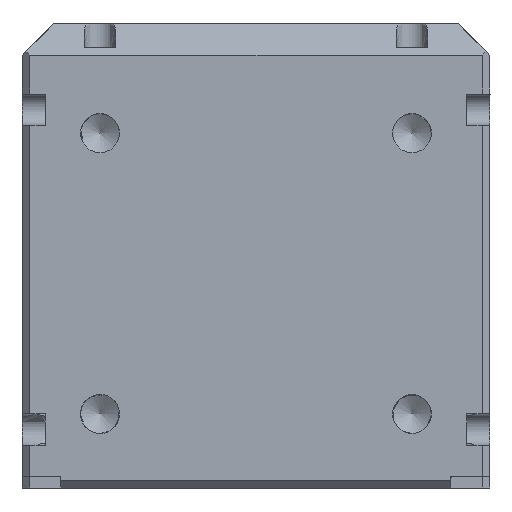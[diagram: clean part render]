
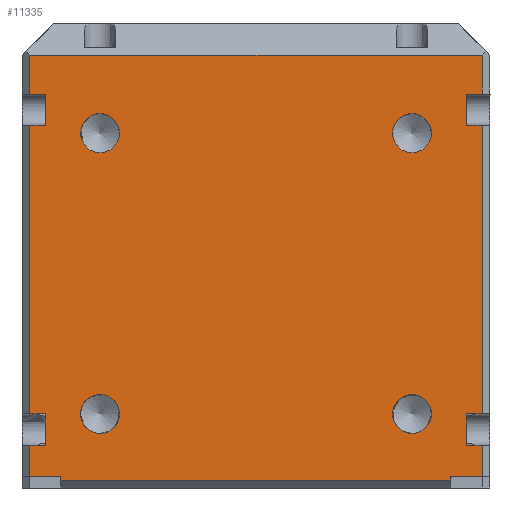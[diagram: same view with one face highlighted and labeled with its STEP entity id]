
A CAD part, front view. The second image highlights one B-rep face of the part: STEP entity #11335.
In plain terms, the highlighted planar face has unit normal (0, -1, 0).
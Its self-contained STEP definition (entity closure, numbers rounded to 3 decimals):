
#476=CARTESIAN_POINT('',(-25.,-48.5,-52.5));
#477=VERTEX_POINT('',#476);
#484=CARTESIAN_POINT('',(-25.,-48.5,-52.));
#485=VERTEX_POINT('',#484);
#486=CARTESIAN_POINT('',(-25.,-48.5,-52.));
#487=DIRECTION('',(0.0,0.0,-1.0));
#488=VECTOR('',#487,0.5);
#489=LINE('',#486,#488);
#490=EDGE_CURVE('',#485,#477,#489,.T.);
#2165=CARTESIAN_POINT('',(-29.,-48.5,-52.));
#2166=VERTEX_POINT('',#2165);
#2167=CARTESIAN_POINT('',(-29.,-48.5,-52.));
#2168=DIRECTION('',(1.0,0.0,0.0));
#2169=VECTOR('',#2168,4.0);
#2170=LINE('',#2167,#2169);
#2171=EDGE_CURVE('',#2166,#485,#2170,.T.);
#2238=CARTESIAN_POINT('',(29.,-48.5,-52.));
#2239=VERTEX_POINT('',#2238);
#2246=CARTESIAN_POINT('',(25.,-48.5,-52.));
#2247=VERTEX_POINT('',#2246);
#2248=CARTESIAN_POINT('',(29.,-48.5,-52.));
#2249=DIRECTION('',(-1.0,0.,0.));
#2250=VECTOR('',#2249,4.0);
#2251=LINE('',#2248,#2250);
#2252=EDGE_CURVE('',#2239,#2247,#2251,.T.);
#2535=CARTESIAN_POINT('',(25.,-48.5,-52.5));
#2536=VERTEX_POINT('',#2535);
#2537=CARTESIAN_POINT('',(25.,-48.5,-52.5));
#2538=DIRECTION('',(0.0,0.0,1.0));
#2539=VECTOR('',#2538,0.5);
#2540=LINE('',#2537,#2539);
#2541=EDGE_CURVE('',#2536,#2247,#2540,.T.);
#2576=CARTESIAN_POINT('',(25.,-48.5,-52.5));
#2577=DIRECTION('',(-1.0,0.0,0.0));
#2578=VECTOR('',#2577,50.0);
#2579=LINE('',#2576,#2578);
#2580=EDGE_CURVE('',#2536,#477,#2579,.T.);
#2700=CARTESIAN_POINT('',(22.5,-48.5,-44.));
#2701=VERTEX_POINT('',#2700);
#2702=CARTESIAN_POINT('',(20.,-48.5,-44.));
#2703=DIRECTION('',(0.0,1.0,0.0));
#2704=DIRECTION('',(1.0,0.0,0.0));
#2705=AXIS2_PLACEMENT_3D('',#2702,#2703,#2704);
#2706=CIRCLE('',#2705,2.5);
#2707=EDGE_CURVE('',#2701,#2701,#2706,.T.);
#2832=CARTESIAN_POINT('',(-17.5,-48.5,-44.));
#2833=VERTEX_POINT('',#2832);
#2834=CARTESIAN_POINT('',(-20.,-48.5,-44.));
#2835=DIRECTION('',(0.0,1.0,0.0));
#2836=DIRECTION('',(1.0,0.0,0.0));
#2837=AXIS2_PLACEMENT_3D('',#2834,#2835,#2836);
#2838=CIRCLE('',#2837,2.5);
#2839=EDGE_CURVE('',#2833,#2833,#2838,.T.);
#2938=CARTESIAN_POINT('',(-17.5,-48.5,-8.));
#2939=VERTEX_POINT('',#2938);
#2940=CARTESIAN_POINT('',(-20.,-48.5,-8.));
#2941=DIRECTION('',(0.0,1.0,0.0));
#2942=DIRECTION('',(1.0,0.0,0.0));
#2943=AXIS2_PLACEMENT_3D('',#2940,#2941,#2942);
#2944=CIRCLE('',#2943,2.5);
#2945=EDGE_CURVE('',#2939,#2939,#2944,.T.);
#3062=CARTESIAN_POINT('',(22.5,-48.5,-8.));
#3063=VERTEX_POINT('',#3062);
#3064=CARTESIAN_POINT('',(20.,-48.5,-8.));
#3065=DIRECTION('',(0.0,1.0,0.0));
#3066=DIRECTION('',(1.0,0.0,0.0));
#3067=AXIS2_PLACEMENT_3D('',#3064,#3065,#3066);
#3068=CIRCLE('',#3067,2.5);
#3069=EDGE_CURVE('',#3063,#3063,#3068,.T.);
#6219=CARTESIAN_POINT('',(29.,-48.5,-48.));
#6220=VERTEX_POINT('',#6219);
#6227=CARTESIAN_POINT('',(29.,-48.5,-48.));
#6228=DIRECTION('',(0.0,0.0,-1.0));
#6229=VECTOR('',#6228,4.0);
#6230=LINE('',#6227,#6229);
#6231=EDGE_CURVE('',#6220,#2239,#6230,.T.);
#6267=CARTESIAN_POINT('',(27.,-48.5,-48.));
#6268=VERTEX_POINT('',#6267);
#6275=CARTESIAN_POINT('',(29.,-48.5,-48.));
#6276=DIRECTION('',(-1.0,0.,0.0));
#6277=VECTOR('',#6276,2.0);
#6278=LINE('',#6275,#6277);
#6279=EDGE_CURVE('',#6220,#6268,#6278,.T.);
#6289=CARTESIAN_POINT('',(29.,-48.5,-44.));
#6290=VERTEX_POINT('',#6289);
#6307=CARTESIAN_POINT('',(29.,-48.5,-7.));
#6308=VERTEX_POINT('',#6307);
#6315=CARTESIAN_POINT('',(29.,-48.5,-7.));
#6316=DIRECTION('',(0.0,0.0,-1.0));
#6317=VECTOR('',#6316,37.);
#6318=LINE('',#6315,#6317);
#6319=EDGE_CURVE('',#6308,#6290,#6318,.T.);
#6346=CARTESIAN_POINT('',(27.,-48.5,-7.));
#6347=VERTEX_POINT('',#6346);
#6354=CARTESIAN_POINT('',(29.,-48.5,-7.));
#6355=DIRECTION('',(-1.0,0.,0.));
#6356=VECTOR('',#6355,2.0);
#6357=LINE('',#6354,#6356);
#6358=EDGE_CURVE('',#6308,#6347,#6357,.T.);
#6527=CARTESIAN_POINT('',(27.,-48.5,-44.));
#6528=VERTEX_POINT('',#6527);
#6529=CARTESIAN_POINT('',(27.,-48.5,-44.));
#6530=DIRECTION('',(1.0,0.,0.0));
#6531=VECTOR('',#6530,2.0);
#6532=LINE('',#6529,#6531);
#6533=EDGE_CURVE('',#6528,#6290,#6532,.T.);
#6574=CARTESIAN_POINT('',(29.,-48.5,-3.));
#6575=VERTEX_POINT('',#6574);
#6584=CARTESIAN_POINT('',(27.,-48.5,-3.));
#6585=VERTEX_POINT('',#6584);
#6586=CARTESIAN_POINT('',(27.,-48.5,-3.));
#6587=DIRECTION('',(1.0,0.,0.));
#6588=VECTOR('',#6587,2.0);
#6589=LINE('',#6586,#6588);
#6590=EDGE_CURVE('',#6585,#6575,#6589,.T.);
#7214=CARTESIAN_POINT('',(27.,-48.5,-48.));
#7215=DIRECTION('',(0.0,0.0,1.0));
#7216=VECTOR('',#7215,4.0);
#7217=LINE('',#7214,#7216);
#7218=EDGE_CURVE('',#6268,#6528,#7217,.T.);
#7274=CARTESIAN_POINT('',(27.,-48.5,-7.));
#7275=DIRECTION('',(0.0,0.0,1.0));
#7276=VECTOR('',#7275,4.);
#7277=LINE('',#7274,#7276);
#7278=EDGE_CURVE('',#6347,#6585,#7277,.T.);
#8760=CARTESIAN_POINT('',(-29.,-48.5,-3.));
#8761=VERTEX_POINT('',#8760);
#8784=CARTESIAN_POINT('',(-27.,-48.5,-3.));
#8785=VERTEX_POINT('',#8784);
#8792=CARTESIAN_POINT('',(-29.,-48.5,-3.));
#8793=DIRECTION('',(1.0,0.0,0.0));
#8794=VECTOR('',#8793,2.0);
#8795=LINE('',#8792,#8794);
#8796=EDGE_CURVE('',#8761,#8785,#8795,.T.);
#8806=CARTESIAN_POINT('',(-29.,-48.5,-7.));
#8807=VERTEX_POINT('',#8806);
#8824=CARTESIAN_POINT('',(-29.,-48.5,-44.));
#8825=VERTEX_POINT('',#8824);
#8832=CARTESIAN_POINT('',(-29.,-48.5,-44.));
#8833=DIRECTION('',(0.0,0.0,1.0));
#8834=VECTOR('',#8833,37.);
#8835=LINE('',#8832,#8834);
#8836=EDGE_CURVE('',#8825,#8807,#8835,.T.);
#8872=CARTESIAN_POINT('',(-27.,-48.5,-44.));
#8873=VERTEX_POINT('',#8872);
#8880=CARTESIAN_POINT('',(-29.,-48.5,-44.));
#8881=DIRECTION('',(1.0,0.0,0.0));
#8882=VECTOR('',#8881,2.0);
#8883=LINE('',#8880,#8882);
#8884=EDGE_CURVE('',#8825,#8873,#8883,.T.);
#8895=CARTESIAN_POINT('',(-29.,-48.5,-48.));
#8896=VERTEX_POINT('',#8895);
#8897=CARTESIAN_POINT('',(-29.,-48.5,-52.));
#8898=DIRECTION('',(0.0,0.0,1.0));
#8899=VECTOR('',#8898,4.0);
#8900=LINE('',#8897,#8899);
#8901=EDGE_CURVE('',#2166,#8896,#8900,.T.);
#8926=CARTESIAN_POINT('',(-27.,-48.5,-48.));
#8927=VERTEX_POINT('',#8926);
#8928=CARTESIAN_POINT('',(-27.,-48.5,-48.));
#8929=DIRECTION('',(-1.0,0.0,0.0));
#8930=VECTOR('',#8929,2.0);
#8931=LINE('',#8928,#8930);
#8932=EDGE_CURVE('',#8927,#8896,#8931,.T.);
#9061=CARTESIAN_POINT('',(-27.,-48.5,-7.));
#9062=VERTEX_POINT('',#9061);
#9063=CARTESIAN_POINT('',(-27.,-48.5,-7.));
#9064=DIRECTION('',(-1.0,0.0,0.0));
#9065=VECTOR('',#9064,2.0);
#9066=LINE('',#9063,#9065);
#9067=EDGE_CURVE('',#9062,#8807,#9066,.T.);
#9555=CARTESIAN_POINT('',(-27.,-48.5,-44.));
#9556=DIRECTION('',(0.0,0.0,-1.0));
#9557=VECTOR('',#9556,4.0);
#9558=LINE('',#9555,#9557);
#9559=EDGE_CURVE('',#8873,#8927,#9558,.T.);
#9754=CARTESIAN_POINT('',(-27.,-48.5,-3.));
#9755=DIRECTION('',(0.0,0.0,-1.0));
#9756=VECTOR('',#9755,4.);
#9757=LINE('',#9754,#9756);
#9758=EDGE_CURVE('',#8785,#9062,#9757,.T.);
#11132=CARTESIAN_POINT('',(-29.,-48.5,2.));
#11133=VERTEX_POINT('',#11132);
#11134=CARTESIAN_POINT('',(-29.,-48.5,-3.));
#11135=DIRECTION('',(0.0,0.0,1.0));
#11136=VECTOR('',#11135,5.0);
#11137=LINE('',#11134,#11136);
#11138=EDGE_CURVE('',#8761,#11133,#11137,.T.);
#11155=CARTESIAN_POINT('',(29.0,-48.5,2.));
#11156=VERTEX_POINT('',#11155);
#11157=CARTESIAN_POINT('',(-29.0,-48.5,2.));
#11158=DIRECTION('',(1.0,0.0,0.0));
#11159=VECTOR('',#11158,58.0);
#11160=LINE('',#11157,#11159);
#11161=EDGE_CURVE('',#11133,#11156,#11160,.T.);
#11287=CARTESIAN_POINT('',(30.0,-48.5,0.0));
#11288=DIRECTION('',(0.0,-1.0,0.0));
#11289=DIRECTION('',(0.0,0.0,-1.0));
#11290=AXIS2_PLACEMENT_3D('',#11287,#11288,#11289);
#11291=PLANE('',#11290);
#11292=ORIENTED_EDGE('',*,*,#11138,.F.);
#11293=ORIENTED_EDGE('',*,*,#8796,.T.);
#11294=ORIENTED_EDGE('',*,*,#9758,.T.);
#11295=ORIENTED_EDGE('',*,*,#9067,.T.);
#11296=ORIENTED_EDGE('',*,*,#8836,.F.);
#11297=ORIENTED_EDGE('',*,*,#8884,.T.);
#11298=ORIENTED_EDGE('',*,*,#9559,.T.);
#11299=ORIENTED_EDGE('',*,*,#8932,.T.);
#11300=ORIENTED_EDGE('',*,*,#8901,.F.);
#11301=ORIENTED_EDGE('',*,*,#2171,.T.);
#11302=ORIENTED_EDGE('',*,*,#490,.T.);
#11303=ORIENTED_EDGE('',*,*,#2580,.F.);
#11304=ORIENTED_EDGE('',*,*,#2541,.T.);
#11305=ORIENTED_EDGE('',*,*,#2252,.F.);
#11306=ORIENTED_EDGE('',*,*,#6231,.F.);
#11307=ORIENTED_EDGE('',*,*,#6279,.T.);
#11308=ORIENTED_EDGE('',*,*,#7218,.T.);
#11309=ORIENTED_EDGE('',*,*,#6533,.T.);
#11310=ORIENTED_EDGE('',*,*,#6319,.F.);
#11311=ORIENTED_EDGE('',*,*,#6358,.T.);
#11312=ORIENTED_EDGE('',*,*,#7278,.T.);
#11313=ORIENTED_EDGE('',*,*,#6590,.T.);
#11314=CARTESIAN_POINT('',(29.,-48.5,2.));
#11315=DIRECTION('',(0.0,0.0,-1.0));
#11316=VECTOR('',#11315,5.);
#11317=LINE('',#11314,#11316);
#11318=EDGE_CURVE('',#11156,#6575,#11317,.T.);
#11319=ORIENTED_EDGE('',*,*,#11318,.F.);
#11320=ORIENTED_EDGE('',*,*,#11161,.F.);
#11321=EDGE_LOOP('',(#11292,#11293,#11294,#11295,#11296,#11297,#11298,#11299,#11300,#11301,#11302,#11303,#11304,#11305,#11306,#11307,#11308,#11309,#11310,#11311,#11312,#11313,#11319,#11320));
#11322=FACE_OUTER_BOUND('',#11321,.T.);
#11323=ORIENTED_EDGE('',*,*,#3069,.T.);
#11324=EDGE_LOOP('',(#11323));
#11325=FACE_BOUND('',#11324,.T.);
#11326=ORIENTED_EDGE('',*,*,#2945,.T.);
#11327=EDGE_LOOP('',(#11326));
#11328=FACE_BOUND('',#11327,.T.);
#11329=ORIENTED_EDGE('',*,*,#2839,.T.);
#11330=EDGE_LOOP('',(#11329));
#11331=FACE_BOUND('',#11330,.T.);
#11332=ORIENTED_EDGE('',*,*,#2707,.T.);
#11333=EDGE_LOOP('',(#11332));
#11334=FACE_BOUND('',#11333,.T.);
#11335=ADVANCED_FACE('',(#11322,#11325,#11328,#11331,#11334),#11291,.T.);
